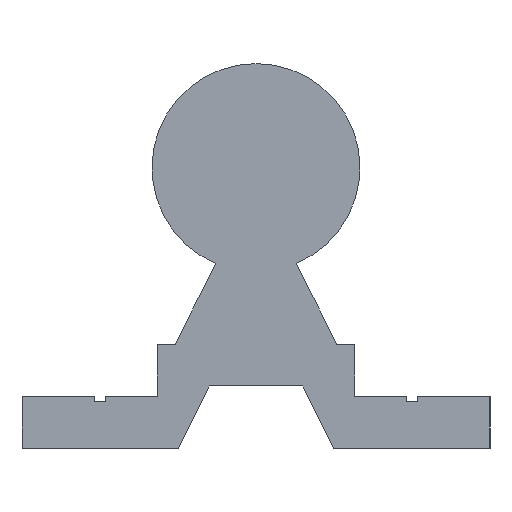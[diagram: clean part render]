
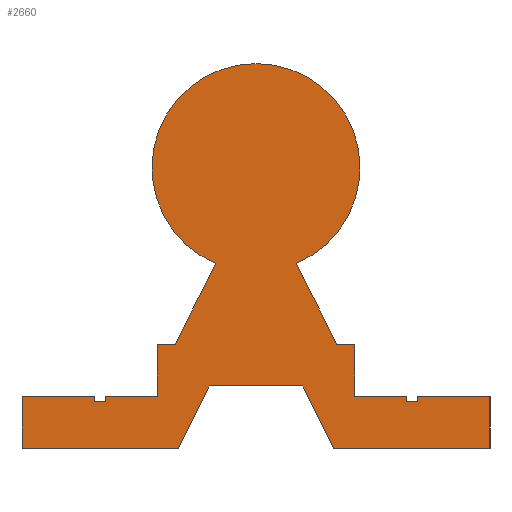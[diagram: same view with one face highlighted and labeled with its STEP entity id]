
A CAD part, left-side view. The second image highlights one B-rep face of the part: STEP entity #2660.
In plain terms, the highlighted planar face has unit normal (-1, 0, 0).
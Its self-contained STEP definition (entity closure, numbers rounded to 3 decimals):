
#66=LINE('',#3795,#284);
#76=LINE('',#3836,#294);
#104=LINE('',#4049,#322);
#222=LINE('',#4499,#440);
#226=LINE('',#4507,#444);
#229=LINE('',#4513,#447);
#232=LINE('',#4519,#450);
#235=LINE('',#4525,#453);
#239=LINE('',#4532,#457);
#242=LINE('',#4537,#460);
#244=LINE('',#4541,#462);
#245=LINE('',#4543,#463);
#246=LINE('',#4546,#464);
#249=LINE('',#4552,#467);
#252=LINE('',#4558,#470);
#255=LINE('',#4565,#473);
#259=LINE('',#4573,#477);
#262=LINE('',#4578,#480);
#265=LINE('',#4583,#483);
#267=LINE('',#4587,#485);
#268=LINE('',#4589,#486);
#269=LINE('',#4592,#487);
#272=LINE('',#4597,#490);
#284=VECTOR('',#2999,10.);
#294=VECTOR('',#3021,10.);
#322=VECTOR('',#3177,10.);
#440=VECTOR('',#3641,10.);
#444=VECTOR('',#3647,10.);
#447=VECTOR('',#3652,10.);
#450=VECTOR('',#3657,10.);
#453=VECTOR('',#3662,10.);
#457=VECTOR('',#3668,10.);
#460=VECTOR('',#3673,10.);
#462=VECTOR('',#3677,10.);
#463=VECTOR('',#3680,10.);
#464=VECTOR('',#3683,10.);
#467=VECTOR('',#3688,10.);
#470=VECTOR('',#3693,10.);
#473=VECTOR('',#3698,10.);
#477=VECTOR('',#3704,10.);
#480=VECTOR('',#3709,10.);
#483=VECTOR('',#3714,10.);
#485=VECTOR('',#3718,10.);
#486=VECTOR('',#3721,10.);
#487=VECTOR('',#3724,10.);
#490=VECTOR('',#3729,10.);
#576=PLANE('',#2960);
#698=FACE_OUTER_BOUND('',#840,.T.);
#840=EDGE_LOOP('',(#2499,#2500,#2501,#2502,#2503,#2504,#2505,#2506,#2507,
#2508,#2509,#2510,#2511,#2512,#2513,#2514,#2515,#2516,#2517,#2518,#2519,
#2520,#2521,#2522));
#997=CIRCLE('',#2957,10.);
#1053=VERTEX_POINT('',#3792);
#1054=VERTEX_POINT('',#3794);
#1066=VERTEX_POINT('',#3833);
#1067=VERTEX_POINT('',#3835);
#1130=VERTEX_POINT('',#4046);
#1131=VERTEX_POINT('',#4048);
#1268=VERTEX_POINT('',#4497);
#1269=VERTEX_POINT('',#4498);
#1272=VERTEX_POINT('',#4506);
#1274=VERTEX_POINT('',#4512);
#1276=VERTEX_POINT('',#4518);
#1278=VERTEX_POINT('',#4524);
#1280=VERTEX_POINT('',#4530);
#1281=VERTEX_POINT('',#4535);
#1282=VERTEX_POINT('',#4539);
#1283=VERTEX_POINT('',#4545);
#1285=VERTEX_POINT('',#4551);
#1287=VERTEX_POINT('',#4557);
#1289=VERTEX_POINT('',#4563);
#1290=VERTEX_POINT('',#4564);
#1293=VERTEX_POINT('',#4572);
#1295=VERTEX_POINT('',#4581);
#1296=VERTEX_POINT('',#4585);
#1297=VERTEX_POINT('',#4591);
#1322=EDGE_CURVE('',#1053,#1054,#66,.T.);
#1338=EDGE_CURVE('',#1066,#1067,#76,.T.);
#1428=EDGE_CURVE('',#1130,#1131,#104,.T.);
#1653=EDGE_CURVE('',#1268,#1269,#222,.T.);
#1657=EDGE_CURVE('',#1272,#1268,#226,.T.);
#1660=EDGE_CURVE('',#1274,#1272,#229,.T.);
#1663=EDGE_CURVE('',#1276,#1274,#232,.T.);
#1666=EDGE_CURVE('',#1278,#1276,#235,.T.);
#1670=EDGE_CURVE('',#1280,#1278,#239,.T.);
#1673=EDGE_CURVE('',#1281,#1280,#242,.T.);
#1675=EDGE_CURVE('',#1282,#1281,#244,.T.);
#1676=EDGE_CURVE('',#1131,#1282,#245,.T.);
#1677=EDGE_CURVE('',#1283,#1130,#246,.T.);
#1680=EDGE_CURVE('',#1285,#1283,#249,.T.);
#1683=EDGE_CURVE('',#1287,#1285,#252,.T.);
#1686=EDGE_CURVE('',#1289,#1290,#255,.T.);
#1690=EDGE_CURVE('',#1293,#1289,#259,.T.);
#1693=EDGE_CURVE('',#1054,#1293,#262,.T.);
#1696=EDGE_CURVE('',#1295,#1053,#265,.T.);
#1698=EDGE_CURVE('',#1296,#1295,#267,.T.);
#1699=EDGE_CURVE('',#1067,#1296,#268,.T.);
#1700=EDGE_CURVE('',#1297,#1066,#269,.T.);
#1703=EDGE_CURVE('',#1269,#1297,#272,.T.);
#1705=EDGE_CURVE('',#1290,#1287,#997,.T.);
#2499=ORIENTED_EDGE('',*,*,#1705,.F.);
#2500=ORIENTED_EDGE('',*,*,#1686,.F.);
#2501=ORIENTED_EDGE('',*,*,#1690,.F.);
#2502=ORIENTED_EDGE('',*,*,#1693,.F.);
#2503=ORIENTED_EDGE('',*,*,#1322,.F.);
#2504=ORIENTED_EDGE('',*,*,#1696,.F.);
#2505=ORIENTED_EDGE('',*,*,#1698,.F.);
#2506=ORIENTED_EDGE('',*,*,#1699,.F.);
#2507=ORIENTED_EDGE('',*,*,#1338,.F.);
#2508=ORIENTED_EDGE('',*,*,#1700,.F.);
#2509=ORIENTED_EDGE('',*,*,#1703,.F.);
#2510=ORIENTED_EDGE('',*,*,#1653,.F.);
#2511=ORIENTED_EDGE('',*,*,#1657,.F.);
#2512=ORIENTED_EDGE('',*,*,#1660,.F.);
#2513=ORIENTED_EDGE('',*,*,#1663,.F.);
#2514=ORIENTED_EDGE('',*,*,#1666,.F.);
#2515=ORIENTED_EDGE('',*,*,#1670,.F.);
#2516=ORIENTED_EDGE('',*,*,#1673,.F.);
#2517=ORIENTED_EDGE('',*,*,#1675,.F.);
#2518=ORIENTED_EDGE('',*,*,#1676,.F.);
#2519=ORIENTED_EDGE('',*,*,#1428,.F.);
#2520=ORIENTED_EDGE('',*,*,#1677,.F.);
#2521=ORIENTED_EDGE('',*,*,#1680,.F.);
#2522=ORIENTED_EDGE('',*,*,#1683,.F.);
#2660=ADVANCED_FACE('',(#698),#576,.F.);
#2957=AXIS2_PLACEMENT_3D('',#4600,#3733,#3734);
#2960=AXIS2_PLACEMENT_3D('',#4603,#3739,#3740);
#2999=DIRECTION('',(0.,-1.,0.));
#3021=DIRECTION('',(0.,-1.,0.));
#3177=DIRECTION('',(0.,-1.,0.));
#3641=DIRECTION('',(0.,0.447,-0.894));
#3647=DIRECTION('',(0.,1.,0.));
#3652=DIRECTION('',(0.,0.447,0.894));
#3657=DIRECTION('',(0.,1.,0.));
#3662=DIRECTION('',(0.,0.,-1.));
#3668=DIRECTION('',(0.,-1.,0.));
#3673=DIRECTION('',(0.,0.,1.));
#3677=DIRECTION('',(0.,-1.,0.));
#3680=DIRECTION('',(0.,0.,-1.));
#3683=DIRECTION('',(0.,0.,-1.));
#3688=DIRECTION('',(0.,-1.,0.));
#3693=DIRECTION('',(0.,-0.447,-0.894));
#3698=DIRECTION('',(0.,-0.447,0.894));
#3704=DIRECTION('',(0.,-1.,0.));
#3709=DIRECTION('',(0.,0.,1.));
#3714=DIRECTION('',(0.,0.,1.));
#3718=DIRECTION('',(0.,-1.,0.));
#3721=DIRECTION('',(0.,0.,-1.));
#3724=DIRECTION('',(0.,0.,1.));
#3729=DIRECTION('',(0.,1.,0.));
#3733=DIRECTION('center_axis',(1.,0.,0.));
#3734=DIRECTION('ref_axis',(0.,1.,0.));
#3739=DIRECTION('center_axis',(1.,0.,0.));
#3740=DIRECTION('ref_axis',(0.,0.,-1.));
#3792=CARTESIAN_POINT('',(0.,14.5,5.));
#3794=CARTESIAN_POINT('',(0.,9.5,5.));
#3795=CARTESIAN_POINT('',(0.,14.5,5.));
#3833=CARTESIAN_POINT('',(0.,22.5,5.));
#3835=CARTESIAN_POINT('',(0.,15.5,5.));
#3836=CARTESIAN_POINT('',(0.,22.5,5.));
#4046=CARTESIAN_POINT('',(0.,-9.5,5.));
#4048=CARTESIAN_POINT('',(0.,-14.5,5.));
#4049=CARTESIAN_POINT('',(0.,-9.5,5.));
#4497=CARTESIAN_POINT('',(0.,4.5,6.));
#4498=CARTESIAN_POINT('',(0.,7.5,0.));
#4499=CARTESIAN_POINT('',(0.,4.5,6.));
#4506=CARTESIAN_POINT('',(0.,-4.5,6.));
#4507=CARTESIAN_POINT('',(0.,-4.5,6.));
#4512=CARTESIAN_POINT('',(0.,-7.5,0.));
#4513=CARTESIAN_POINT('',(0.,-7.5,0.));
#4518=CARTESIAN_POINT('',(0.,-22.5,0.));
#4519=CARTESIAN_POINT('',(0.,-22.5,0.));
#4524=CARTESIAN_POINT('',(0.,-22.5,5.));
#4525=CARTESIAN_POINT('',(0.,-22.5,5.));
#4530=CARTESIAN_POINT('',(0.,-15.5,5.));
#4532=CARTESIAN_POINT('',(0.,-15.5,5.));
#4535=CARTESIAN_POINT('',(0.,-15.5,4.5));
#4537=CARTESIAN_POINT('',(0.,-15.5,4.5));
#4539=CARTESIAN_POINT('',(0.,-14.5,4.5));
#4541=CARTESIAN_POINT('',(0.,-14.5,4.5));
#4543=CARTESIAN_POINT('',(0.,-14.5,5.));
#4545=CARTESIAN_POINT('',(0.,-9.5,10.));
#4546=CARTESIAN_POINT('',(0.,-9.5,10.));
#4551=CARTESIAN_POINT('',(0.,-7.766,10.));
#4552=CARTESIAN_POINT('',(0.,-7.766,10.));
#4557=CARTESIAN_POINT('',(0.,-3.875,17.781));
#4558=CARTESIAN_POINT('',(0.,-3.875,17.781));
#4563=CARTESIAN_POINT('',(0.,7.766,10.));
#4564=CARTESIAN_POINT('',(0.,3.875,17.781));
#4565=CARTESIAN_POINT('',(0.,7.766,10.));
#4572=CARTESIAN_POINT('',(0.,9.5,10.));
#4573=CARTESIAN_POINT('',(0.,9.5,10.));
#4578=CARTESIAN_POINT('',(0.,9.5,5.));
#4581=CARTESIAN_POINT('',(0.,14.5,4.5));
#4583=CARTESIAN_POINT('',(0.,14.5,4.5));
#4585=CARTESIAN_POINT('',(0.,15.5,4.5));
#4587=CARTESIAN_POINT('',(0.,15.5,4.5));
#4589=CARTESIAN_POINT('',(0.,15.5,5.));
#4591=CARTESIAN_POINT('',(0.,22.5,0.));
#4592=CARTESIAN_POINT('',(0.,22.5,0.));
#4597=CARTESIAN_POINT('',(0.,7.5,0.));
#4600=CARTESIAN_POINT('Origin',(0.,0.,27.));
#4603=CARTESIAN_POINT('Origin',(0.,0.,27.));
